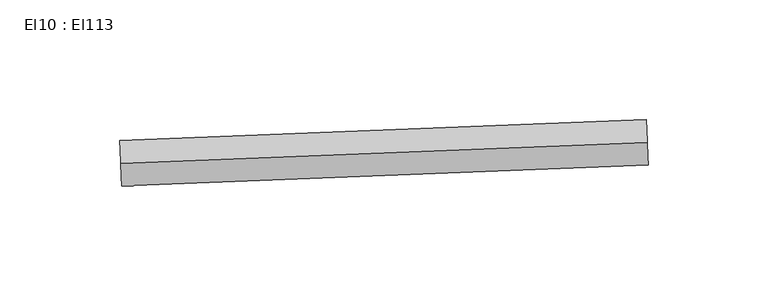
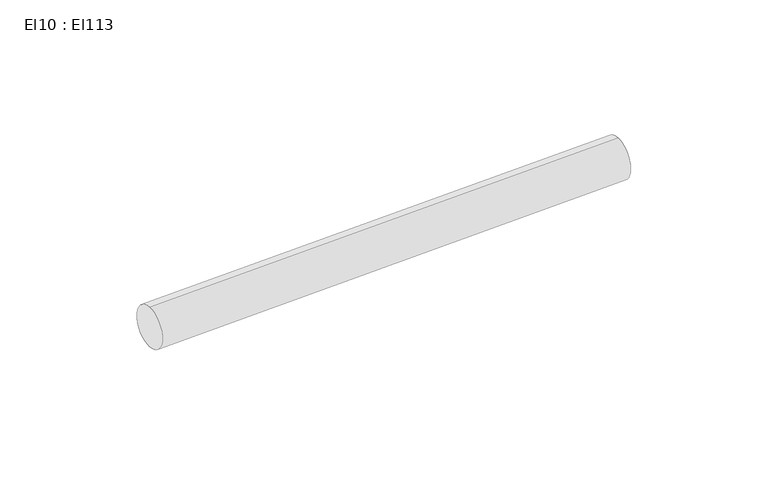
"""IFC4 building model written with IfcOpenShell, lengths in millimetres: cable carrier segment geometry, El10 : El113."""

from ifc_helpers import new_model, si_unit, point, frame, frame_2d, origin, place, context, project, spatial, circle_curve, trimmed, segment, composite_curve, outline, extrude, source, transform, mapped, element, save


def el10_el113_36675287(model_context):
    return source(origin(), model_context, "Body", "SweptSolid", [
        extrude(outline(composite_curve([segment(trimmed(circle_curve(frame_2d((0.0, -9.5)), 9.5), [point((0.0, -19.0))], [point((0.0, 0.0))], False, "CARTESIAN"), True, "CONTINUOUS"), segment(trimmed(circle_curve(frame_2d((0.0, -9.5)), 9.5), [point((0.0, 0.0))], [point((0.0, -19.0))], False, "CARTESIAN"), True, "CONTINUOUS")], self_intersect=False)), frame((30160.2408672, 6757.0119294, 2709.5), z_axis=(0.9991984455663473, 0.04003081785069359, 0.0), x_axis=(-0.04003081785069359, 0.9991984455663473, 0.0)), (0.0, 0.0, 1.0), 219.843),
    ])


if __name__ == "__main__":
    model = new_model("IFC4")
    model_context = context("Model", 3, world=origin())
    ifc_project = project(units=[si_unit("LENGTHUNIT", "METRE", prefix="MILLI")], contexts=[model_context])
    site = spatial("IfcSite", under=ifc_project)
    building = spatial("IfcBuilding", under=site)
    placement = place(None, origin())
    el10_el113_shape = el10_el113_36675287(model_context)
    element("IfcCableCarrierSegment", 1, ObjectType="El10 : El113", at=placement, inside=building, context=model_context, shape_type="MappedRepresentation", body=[
        mapped(el10_el113_shape, transform((0.0, 0.0, 0.0), x_axis=(1.0, 0.0, 0.0), y_axis=(0.0, 1.0, 0.0), z_axis=(0.0, 0.0, 1.0))),
    ])
    save(model, "model.ifc")
